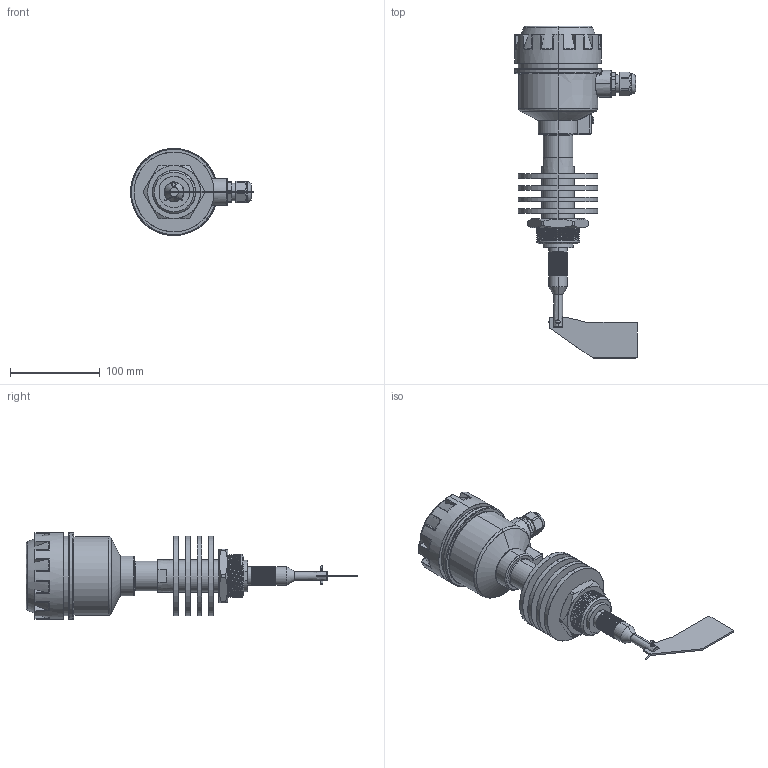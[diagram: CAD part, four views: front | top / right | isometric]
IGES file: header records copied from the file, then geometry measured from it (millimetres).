
Start section: SolidWorks IGES file using analytic representation for surfaces
Global section: file name: C:\Users\Äîì\Desktop\Äàò÷èêè ìîäåëè\IL-SAA-N-HT\Äëÿ Êîìïàñà\IL-SAA-N-HT ìóôòîâàÿ ëîïàñòü - ð.IGS; native system: SolidWorks 2020; preprocessor: SolidWorks 2020; author: Äîì; date: 201225.144126; units: millimetre
Bounding box: 137 x 370.2 x 97 mm (x, y, z)
Surface area: 161022.4 mm2 (no closed solid volume)
Topology: 0 solids, 0 shells, 605 faces, 8283 edges, 8262 vertices
Faces by surface type: revolution 303, bspline 302
